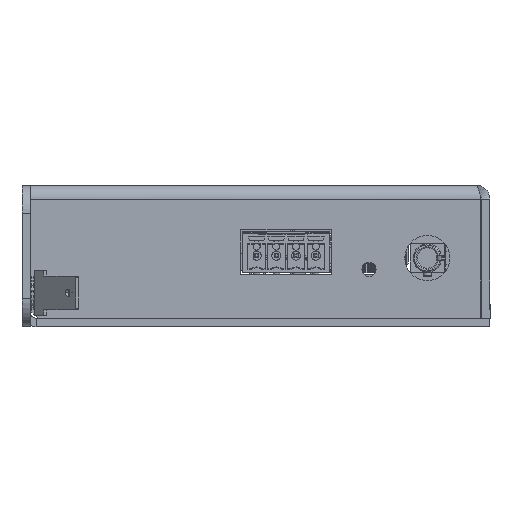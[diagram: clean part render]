
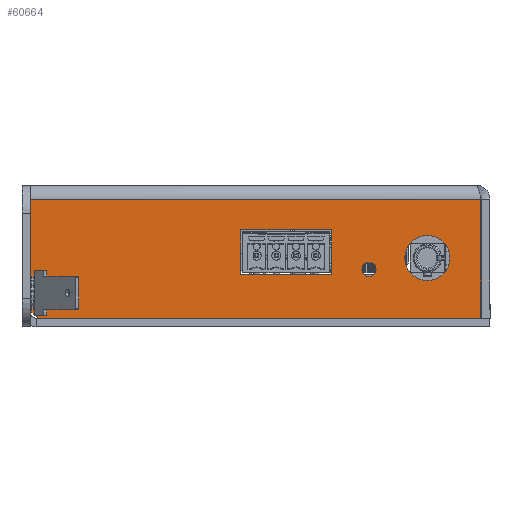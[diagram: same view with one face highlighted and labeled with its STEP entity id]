
A CAD part, left-side view. The second image highlights one B-rep face of the part: STEP entity #60664.
In plain terms, the highlighted planar face has unit normal (-1, 0, 0) as drawn and (0, 1, 0) by its records, which use the part's own axes.
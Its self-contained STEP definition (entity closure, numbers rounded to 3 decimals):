
#940 = LINE ( 'NONE', #26060, #64244 ) ;
#1550 = ORIENTED_EDGE ( 'NONE', *, *, #14905, .F. ) ;
#1651 = EDGE_CURVE ( 'NONE', #4886, #13365, #39116, .T. ) ;
#2769 = CARTESIAN_POINT ( 'NONE',  ( 26.6, 137.7, -7.9 ) ) ;
#3221 = VECTOR ( 'NONE', #133976, 1000. ) ;
#3965 = CARTESIAN_POINT ( 'NONE',  ( 0.1, 137.7, -23.6 ) ) ;
#4875 = VECTOR ( 'NONE', #103011, 1000. ) ;
#4886 = VERTEX_POINT ( 'NONE', #129785 ) ;
#5810 = CARTESIAN_POINT ( 'NONE',  ( 0.1, 137.7, -2.5 ) ) ;
#6354 = CARTESIAN_POINT ( 'NONE',  ( 80., 137.7, -2.5 ) ) ;
#7153 = DIRECTION ( 'NONE',  ( 0., 0., 1. ) ) ;
#7822 = VERTEX_POINT ( 'NONE', #101245 ) ;
#8445 = VERTEX_POINT ( 'NONE', #5810 ) ;
#10652 = EDGE_CURVE ( 'NONE', #7822, #35093, #940, .T. ) ;
#10877 = CARTESIAN_POINT ( 'NONE',  ( 19.961, 137.7, -14.925 ) ) ;
#11446 = VERTEX_POINT ( 'NONE', #62596 ) ;
#12474 = DIRECTION ( 'NONE',  ( 0., 0., -1. ) ) ;
#12760 = LINE ( 'NONE', #64082, #49401 ) ;
#13365 = VERTEX_POINT ( 'NONE', #38901 ) ;
#14905 = EDGE_CURVE ( 'NONE', #8445, #114276, #129709, .T. ) ;
#15649 = VECTOR ( 'NONE', #7153, 1000. ) ;
#16517 = VERTEX_POINT ( 'NONE', #100266 ) ;
#18332 = CARTESIAN_POINT ( 'NONE',  ( 26.6, 137.7, -15.85 ) ) ;
#18718 = ORIENTED_EDGE ( 'NONE', *, *, #99811, .F. ) ;
#18955 = CARTESIAN_POINT ( 'NONE',  ( 9.6, 137.7, -16.9 ) ) ;
#21873 = DIRECTION ( 'NONE',  ( 0., 0., -1. ) ) ;
#23264 = EDGE_CURVE ( 'NONE', #51852, #16517, #33716, .T. ) ;
#26060 = CARTESIAN_POINT ( 'NONE',  ( 80., 137.7, -23.6 ) ) ;
#26918 = CARTESIAN_POINT ( 'NONE',  ( 9.6, 137.7, -8.9 ) ) ;
#28360 = ORIENTED_EDGE ( 'NONE', *, *, #10652, .T. ) ;
#30553 = FACE_BOUND ( 'NONE', #50802, .T. ) ;
#30684 = DIRECTION ( 'NONE',  ( 0., 0., 1. ) ) ;
#32743 = DIRECTION ( 'NONE',  ( 0., 0., 1. ) ) ;
#32944 = DIRECTION ( 'NONE',  ( -1., 0., 0. ) ) ;
#33716 = LINE ( 'NONE', #134203, #121805 ) ;
#35093 = VERTEX_POINT ( 'NONE', #99647 ) ;
#36752 = DIRECTION ( 'NONE',  ( 0., 0., -1. ) ) ;
#38002 = DIRECTION ( 'NONE',  ( 0., 1., 0. ) ) ;
#38901 = CARTESIAN_POINT ( 'NONE',  ( 19.961, 137.7, -13.675 ) ) ;
#39116 = CIRCLE ( 'NONE', #76260, 1.25 ) ;
#42173 = LINE ( 'NONE', #100575, #112017 ) ;
#42938 = DIRECTION ( 'NONE',  ( 0., 1., 0. ) ) ;
#43960 = EDGE_LOOP ( 'NONE', ( #28360, #50764, #97086, #1550, #18718 ) ) ;
#44650 = DIRECTION ( 'NONE',  ( 0., 1., 0. ) ) ;
#46872 = EDGE_CURVE ( 'NONE', #113636, #51852, #111422, .T. ) ;
#48943 = VERTEX_POINT ( 'NONE', #18955 ) ;
#49351 = AXIS2_PLACEMENT_3D ( 'NONE', #134138, #123061, #49670 ) ;
#49401 = VECTOR ( 'NONE', #32944, 1000. ) ;
#49670 = DIRECTION ( 'NONE',  ( 0., 0., 1. ) ) ;
#50764 = ORIENTED_EDGE ( 'NONE', *, *, #128008, .T. ) ;
#50802 = EDGE_LOOP ( 'NONE', ( #69627, #73454, #63720, #127757 ) ) ;
#51852 = VERTEX_POINT ( 'NONE', #97785 ) ;
#52960 = EDGE_CURVE ( 'NONE', #11446, #114276, #12760, .T. ) ;
#54848 = AXIS2_PLACEMENT_3D ( 'NONE', #86454, #44650, #21873 ) ;
#55649 = CARTESIAN_POINT ( 'NONE',  ( 0.1, 137.7, -2.5 ) ) ;
#58171 = CARTESIAN_POINT ( 'NONE',  ( 26.6, 137.7, -15.85 ) ) ;
#59239 = DIRECTION ( 'NONE',  ( -1., 0., 0. ) ) ;
#59724 = CARTESIAN_POINT ( 'NONE',  ( 26.6, 137.7, -7.9 ) ) ;
#60664 = ADVANCED_FACE ( 'NONE', ( #105354, #30553, #123590, #90442 ), #126946, .F. ) ;
#62596 = CARTESIAN_POINT ( 'NONE',  ( 78., 137.7, -23.6 ) ) ;
#63720 = ORIENTED_EDGE ( 'NONE', *, *, #135132, .F. ) ;
#64082 = CARTESIAN_POINT ( 'NONE',  ( 0., 137.7, -23.6 ) ) ;
#64244 = VECTOR ( 'NONE', #36752, 1000. ) ;
#64284 = DIRECTION ( 'NONE',  ( 0., -1., 0. ) ) ;
#69627 = ORIENTED_EDGE ( 'NONE', *, *, #23264, .F. ) ;
#72949 = VERTEX_POINT ( 'NONE', #58171 ) ;
#73454 = ORIENTED_EDGE ( 'NONE', *, *, #46872, .F. ) ;
#74747 = EDGE_CURVE ( 'NONE', #93968, #48943, #89039, .T. ) ;
#74927 = DIRECTION ( 'NONE',  ( 0., 0., -1. ) ) ;
#76260 = AXIS2_PLACEMENT_3D ( 'NONE', #134497, #38002, #112311 ) ;
#80373 = EDGE_LOOP ( 'NONE', ( #111228, #97016 ) ) ;
#81340 = DIRECTION ( 'NONE',  ( 0., 0., -1. ) ) ;
#84711 = EDGE_LOOP ( 'NONE', ( #103700, #104635 ) ) ;
#84848 = VECTOR ( 'NONE', #12474, 1000. ) ;
#86454 = CARTESIAN_POINT ( 'NONE',  ( 78., 137.7, -21.6 ) ) ;
#89039 = CIRCLE ( 'NONE', #49351, 4. ) ;
#90442 = FACE_OUTER_BOUND ( 'NONE', #43960, .T. ) ;
#90678 = AXIS2_PLACEMENT_3D ( 'NONE', #117207, #64284, #74927 ) ;
#93968 = VERTEX_POINT ( 'NONE', #26918 ) ;
#94372 = CARTESIAN_POINT ( 'NONE',  ( 9.6, 137.7, -12.9 ) ) ;
#95482 = LINE ( 'NONE', #18332, #15649 ) ;
#97016 = ORIENTED_EDGE ( 'NONE', *, *, #1651, .F. ) ;
#97086 = ORIENTED_EDGE ( 'NONE', *, *, #52960, .T. ) ;
#97785 = CARTESIAN_POINT ( 'NONE',  ( 42.7, 137.7, -7.9 ) ) ;
#99647 = CARTESIAN_POINT ( 'NONE',  ( 80., 137.7, -21.6 ) ) ;
#99811 = EDGE_CURVE ( 'NONE', #7822, #8445, #121320, .T. ) ;
#100266 = CARTESIAN_POINT ( 'NONE',  ( 42.7, 137.7, -15.85 ) ) ;
#100575 = CARTESIAN_POINT ( 'NONE',  ( 42.7, 137.7, -15.85 ) ) ;
#101245 = CARTESIAN_POINT ( 'NONE',  ( 80., 137.7, -2.5 ) ) ;
#101254 = EDGE_CURVE ( 'NONE', #48943, #93968, #117454, .T. ) ;
#103011 = DIRECTION ( 'NONE',  ( -1., 0., 0. ) ) ;
#103700 = ORIENTED_EDGE ( 'NONE', *, *, #74747, .F. ) ;
#104635 = ORIENTED_EDGE ( 'NONE', *, *, #101254, .F. ) ;
#105354 = FACE_BOUND ( 'NONE', #80373, .T. ) ;
#106394 = DIRECTION ( 'NONE',  ( 0., 1., 0. ) ) ;
#108007 = EDGE_CURVE ( 'NONE', #13365, #4886, #128389, .T. ) ;
#111228 = ORIENTED_EDGE ( 'NONE', *, *, #108007, .F. ) ;
#111422 = LINE ( 'NONE', #59724, #3221 ) ;
#112017 = VECTOR ( 'NONE', #59239, 1000. ) ;
#112311 = DIRECTION ( 'NONE',  ( 0., 0., 1. ) ) ;
#112407 = AXIS2_PLACEMENT_3D ( 'NONE', #10877, #42938, #32743 ) ;
#113636 = VERTEX_POINT ( 'NONE', #2769 ) ;
#114251 = AXIS2_PLACEMENT_3D ( 'NONE', #94372, #106394, #30684 ) ;
#114276 = VERTEX_POINT ( 'NONE', #3965 ) ;
#117207 = CARTESIAN_POINT ( 'NONE',  ( 80., 137.7, -1.5 ) ) ;
#117454 = CIRCLE ( 'NONE', #114251, 4. ) ;
#121320 = LINE ( 'NONE', #6354, #4875 ) ;
#121805 = VECTOR ( 'NONE', #81340, 1000. ) ;
#123061 = DIRECTION ( 'NONE',  ( 0., 1., 0. ) ) ;
#123590 = FACE_BOUND ( 'NONE', #84711, .T. ) ;
#126946 = PLANE ( 'NONE',  #90678 ) ;
#127085 = EDGE_CURVE ( 'NONE', #16517, #72949, #42173, .T. ) ;
#127757 = ORIENTED_EDGE ( 'NONE', *, *, #127085, .F. ) ;
#128008 = EDGE_CURVE ( 'NONE', #35093, #11446, #134852, .T. ) ;
#128389 = CIRCLE ( 'NONE', #112407, 1.25 ) ;
#129709 = LINE ( 'NONE', #55649, #84848 ) ;
#129785 = CARTESIAN_POINT ( 'NONE',  ( 19.961, 137.7, -16.175 ) ) ;
#133976 = DIRECTION ( 'NONE',  ( 1., 0., 0. ) ) ;
#134138 = CARTESIAN_POINT ( 'NONE',  ( 9.6, 137.7, -12.9 ) ) ;
#134203 = CARTESIAN_POINT ( 'NONE',  ( 42.7, 137.7, -7.9 ) ) ;
#134497 = CARTESIAN_POINT ( 'NONE',  ( 19.961, 137.7, -14.925 ) ) ;
#134852 = CIRCLE ( 'NONE', #54848, 2. ) ;
#135132 = EDGE_CURVE ( 'NONE', #72949, #113636, #95482, .T. ) ;
